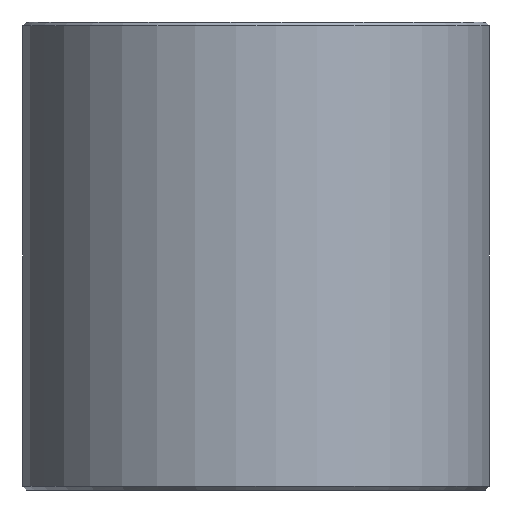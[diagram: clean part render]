
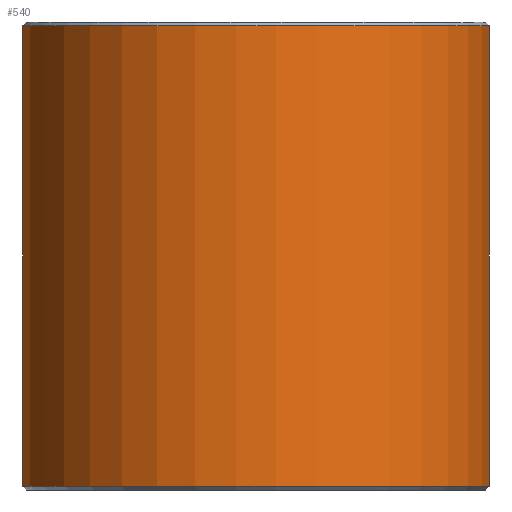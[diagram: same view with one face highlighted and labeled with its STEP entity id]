
A CAD part, front view. The second image highlights one B-rep face of the part: STEP entity #540.
In plain terms, the highlighted cylindrical face has radius 6 mm (diameter 12 mm), a partial arc.
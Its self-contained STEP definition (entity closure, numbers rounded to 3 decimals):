
#52=CARTESIAN_POINT('',(0.,0.,-5.9));
#53=DIRECTION('',(0.,0.,1.));
#54=DIRECTION('',(-0.083,0.997,0.));
#55=AXIS2_PLACEMENT_3D('',#52,#53,#54);
#117=DIRECTION('',(0.,0.,1.));
#118=VECTOR('',#117,11.8);
#119=CARTESIAN_POINT('',(0.5,5.979,-5.9));
#120=LINE('',#119,#118);
#150=CARTESIAN_POINT('',(0.,0.,
5.9));
#151=DIRECTION('',(0.,0.,-1.));
#152=DIRECTION('',(0.083,0.997,0.));
#153=AXIS2_PLACEMENT_3D('',#150,#151,#152);
#227=DIRECTION('',(0.,0.,1.));
#228=VECTOR('',#227,11.8);
#229=CARTESIAN_POINT('',(-0.5,5.979,
-5.9));
#230=LINE('',#229,#228);
#242=CARTESIAN_POINT('',(-0.5,5.979,5.9));
#244=VERTEX_POINT('',#242);
#249=CARTESIAN_POINT('',(0.5,5.979,5.9));
#251=VERTEX_POINT('',#249);
#261=CARTESIAN_POINT('',(-0.5,5.979,
-5.9));
#263=VERTEX_POINT('',#261);
#266=CARTESIAN_POINT('',(0.5,5.979,-5.9));
#268=VERTEX_POINT('',#266);
#529=CARTESIAN_POINT('',(0.,0.,-6.));
#530=DIRECTION('',(0.,0.,1.));
#531=DIRECTION('',(1.,0.,0.));
#532=AXIS2_PLACEMENT_3D('',#529,#530,#531);
#533=CYLINDRICAL_SURFACE('',#532,6.);
#534=ORIENTED_EDGE('',*,*,#432,.F.);
#535=ORIENTED_EDGE('',*,*,#390,.F.);
#536=ORIENTED_EDGE('',*,*,#304,.F.);
#537=ORIENTED_EDGE('',*,*,#514,.T.);
#538=EDGE_LOOP('',(#534,#535,#536,#537));
#539=FACE_OUTER_BOUND('',#538,.F.);
#56=CIRCLE('',#55,6.);
#154=CIRCLE('',#153,6.);
#304=EDGE_CURVE('',#263,#268,#56,.T.);
#390=EDGE_CURVE('',#268,#251,#120,.T.);
#432=EDGE_CURVE('',#251,#244,#154,.T.);
#514=EDGE_CURVE('',#263,#244,#230,.T.);
#540=ADVANCED_FACE('',(#539),#533,.T.);
